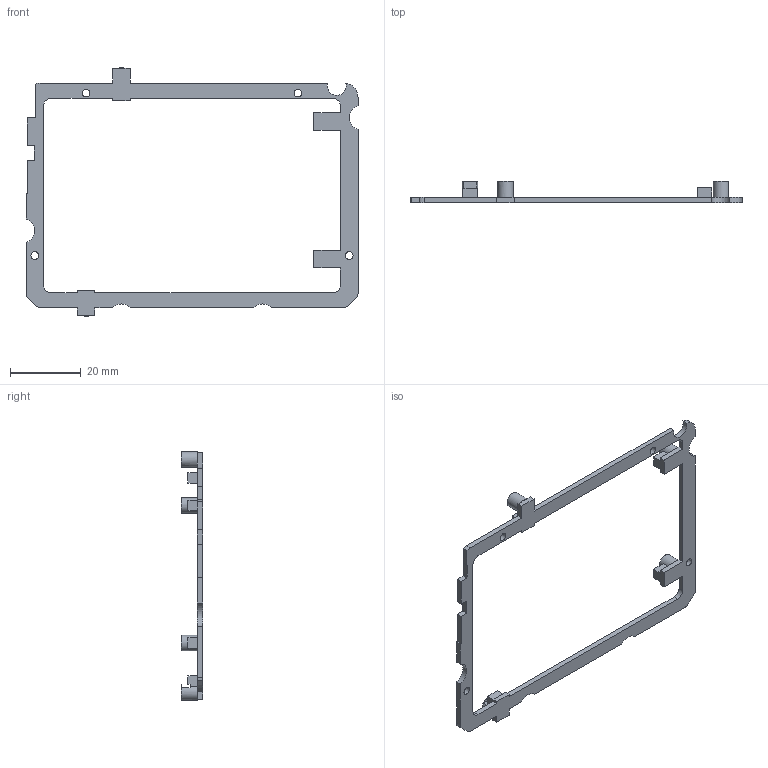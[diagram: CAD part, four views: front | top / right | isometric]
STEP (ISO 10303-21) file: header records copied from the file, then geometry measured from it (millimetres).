
FILE_DESCRIPTION(('Open CASCADE Model'),'2;1');
FILE_NAME('06_PCB_EDGE_CARRIER','2026-09-06T11:49:22',('Author'),( 'Open CASCADE'),'Open CASCADE STEP processor 7.8','build123d', 'Unknown');
FILE_SCHEMA(('AUTOMOTIVE_DESIGN { 1 0 10303 214 1 1 1 1 }'));
Length unit declared in the file: millimetre
Products named in the file (1): 06_PCB_EDGE_CARRIER
Bounding box: 94 x 6.1 x 70.4 mm (x, y, z)
Volume: 2370.3 mm3; surface area: 4250.2 mm2
Topology: 1 solids, 1 shells, 114 faces, 311 edges, 206 vertices
Faces by surface type: plane 84, cylinder 30
Full cylindrical faces by diameter (mm): 2 x4, 2.2 x4, 4.4 x4
Entity records: 7649 total; most frequent: CARTESIAN_POINT 1415, DIRECTION 1152, LINE 728, VECTOR 728, ORIENTED_EDGE 622, PCURVE 622, DEFINITIONAL_REPRESENTATION 622, EDGE_CURVE 311
